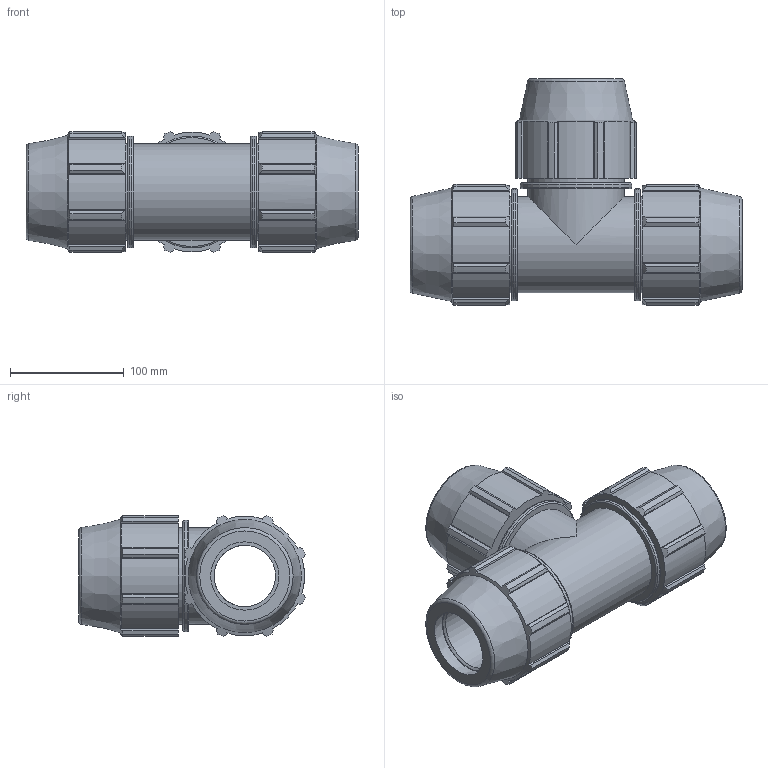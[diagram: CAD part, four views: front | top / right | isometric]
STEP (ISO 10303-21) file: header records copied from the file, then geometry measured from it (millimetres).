
FILE_DESCRIPTION(/* description */ ('PLASSON TEE 2'''' - 2'''' - 2'''''),/* implementation_level */ '2;1');
FILE_NAME(/* name */ 'C:\Dropbox\KIMPROJECTS-Inventor 2019\99-16-3568-Processing Inch\ASTM Compression 2021\0704M0\0704M0200.ipt.stp',/* time_stamp */ '2021-08-26T12:31:29+03:00',/* author */ ('KIM'),/* organization */ (''),/* preprocessor_version */ 'ST-DEVELOPER v17.2',/* originating_system */ 'Autodesk Inventor 2019',/* authorisation */ '');
FILE_SCHEMA (('AUTOMOTIVE_DESIGN { 1 0 10303 214 3 1 1 }'));
Length unit declared in the file: inch
Products named in the file (1): 0704M0200
Bounding box: 292.1 x 199.23 x 106.35 mm (x, y, z)
Volume: 1768835.4 mm3; surface area: 230991.2 mm2
Topology: 1 solids, 1 shells, 212 faces, 627 edges, 431 vertices
Faces by surface type: plane 114, cylinder 61, cone 28, torus 9
Full cylindrical faces by diameter (mm): 54.09 x2, 60.1 x3, 84.772 x5, 98.336 x3
Entity records: 7414 total; most frequent: CARTESIAN_POINT 1431, ORIENTED_EDGE 1254, DIRECTION 1205, EDGE_CURVE 627, AXIS2_PLACEMENT_3D 445, VERTEX_POINT 431, LINE 315, VECTOR 315
